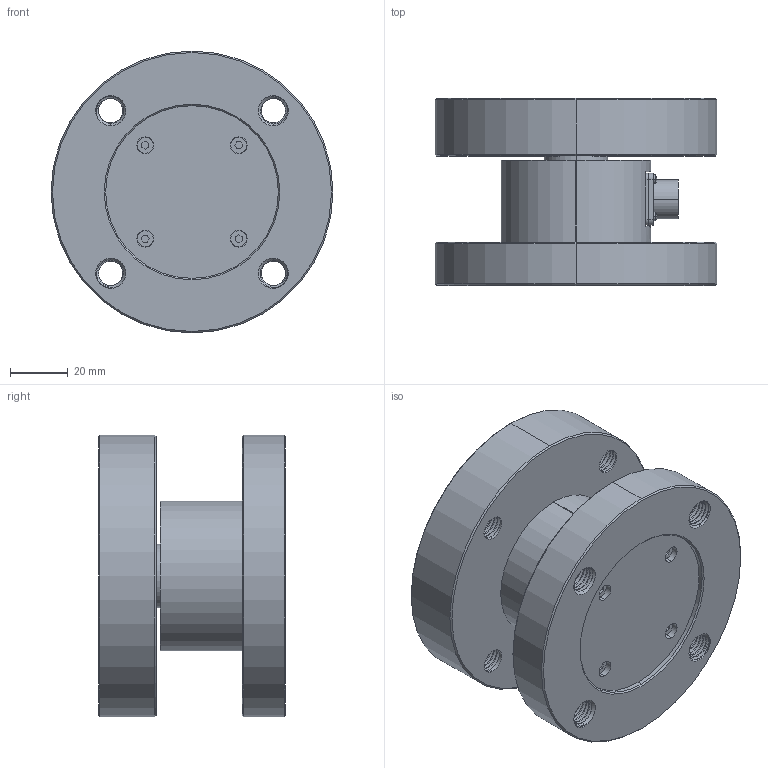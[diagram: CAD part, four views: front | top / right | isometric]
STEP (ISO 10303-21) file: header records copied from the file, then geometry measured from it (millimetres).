
FILE_DESCRIPTION (( 'STEP AP203' ), '1' );
FILE_NAME ('LCM10.STEP', '2024-07-16T05:25:16', ( '' ), ( '' ), 'SwSTEP 2.0', 'SolidWorks 2019', '' );
FILE_SCHEMA (( 'CONFIG_CONTROL_DESIGN' ));
Length unit declared in the file: millimetre
Products named in the file (1): LCM10
Bounding box: 98 x 65 x 98 mm (x, y, z)
Volume: 277207 mm3; surface area: 59837.6 mm2
Topology: 12 solids, 12 shells, 422 faces, 1064 edges, 694 vertices
Faces by surface type: cylinder 262, plane 94, cone 34, bspline 24, sphere 8
Entity records: 28393 total; most frequent: CARTESIAN_POINT 19231, ORIENTED_EDGE 2128, DIRECTION 1670, EDGE_CURVE 1064, VERTEX_POINT 694, AXIS2_PLACEMENT_3D 619, EDGE_LOOP 468, LINE 432
